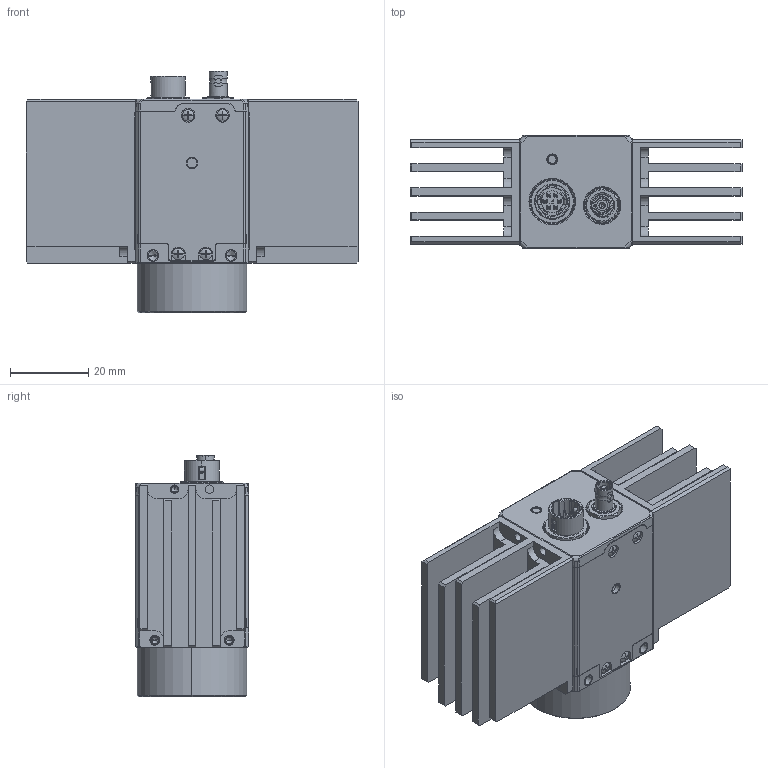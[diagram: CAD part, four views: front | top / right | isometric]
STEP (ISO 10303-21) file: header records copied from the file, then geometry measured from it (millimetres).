
FILE_DESCRIPTION((''),'2;1');
FILE_NAME('00-CXP-CU0_ASM_ASM_ASM','2026-06-15T16:51:23',('gengdawei'),(''),'CREO PARAMETRIC BY PTC INC, 2020044','CREO PARAMETRIC BY PTC INC, 2020044','');
FILE_SCHEMA(('CONFIG_CONTROL_DESIGN'));
Products named in the file (19): DE-13-002304B_43_1; LGP_YABAN_35_3_1; LVGUANGPIAN_5_2_1; CXP0001_ASM_36_ASM_1_ASM; SC-T1M2X3NL-B_11_1; 00-0505-0001_ASM_64_ASM_1_ASM; D-01-35-26-0837_12_1; DE-13-002732_50_1; 0001_ASM_77_ASM_1_ASM; CXP000_ASM_14_ASM_1_ASM; CXP0002_ASM_9_ASM_1_ASM; DE-14-092931_19_1; 0002_ASM_16_ASM_1_ASM; DE-11-012833_3_1; 00-CXP-CU0_ASM_47_ASM_1_ASM; 00-CXP-CU0_ASM_ASM_1_ASM; MV-20000REV13-0116-11-20260116; DE-14-062735; 00-CXP-CU0_ASM_ASM_ASM
Assembly tree (25 placements, depth 7):
  00-CXP-CU0_ASM_ASM_ASM
    00-CXP-CU0_ASM_ASM_1_ASM
      00-CXP-CU0_ASM_47_ASM_1_ASM
        00-0505-0001_ASM_64_ASM_1_ASM
          CXP0001_ASM_36_ASM_1_ASM
            DE-13-002304B_43_1
            LGP_YABAN_35_3_1
            LVGUANGPIAN_5_2_1
          SC-T1M2X3NL-B_11_1
        CXP0002_ASM_9_ASM_1_ASM
          CXP000_ASM_14_ASM_1_ASM
            0001_ASM_77_ASM_1_ASM
              D-01-35-26-0837_12_1
              DE-13-002732_50_1
        0002_ASM_16_ASM_1_ASM
          DE-14-092931_19_1
          SC-T1M2X3NL-B_11_1  x4
        DE-11-012833_3_1
        SC-T1M2X3NL-B_11_1  x2
    MV-20000REV13-0116-11-20260116
    DE-14-062735  x2
Bounding box: 85 x 29 x 61.76 mm (x, y, z)
Volume: 39569.3 mm3; surface area: 46287.4 mm2
Topology: 17 solids, 59 shells, 2999 faces, 8571 edges, 5584 vertices
Faces by surface type: plane 1466, cylinder 903, bspline 246, cone 220, torus 147, sphere 14, extrusion 3
Entity records: 123296 total; most frequent: CARTESIAN_POINT 55188, ORIENTED_EDGE 15049, DIRECTION 12974, EDGE_CURVE 7627, VERTEX_POINT 5024, AXIS2_PLACEMENT_3D 4543, VECTOR 3888, LINE 3885
